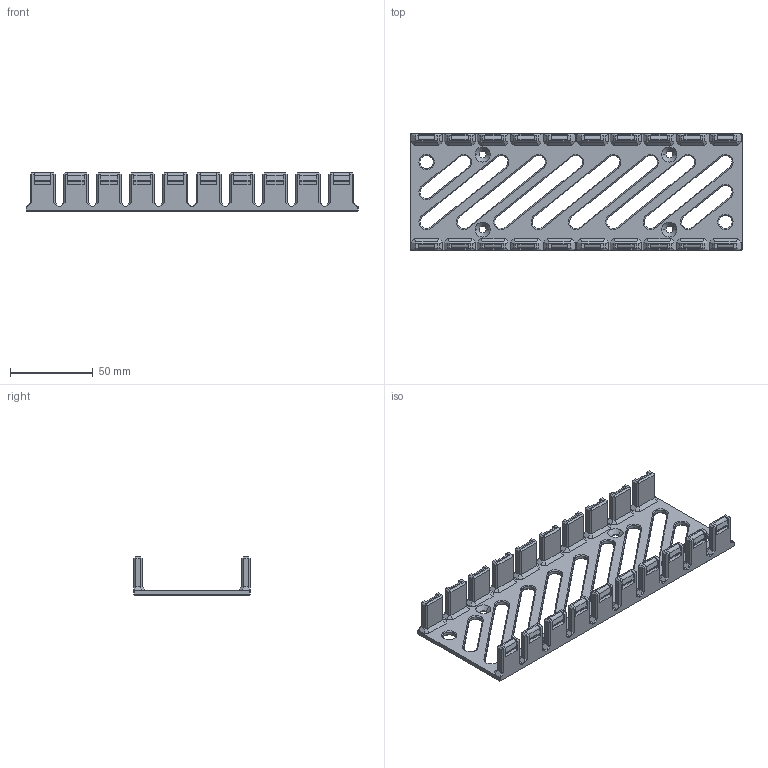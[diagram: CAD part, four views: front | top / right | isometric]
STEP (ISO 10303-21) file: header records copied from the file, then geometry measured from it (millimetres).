
FILE_DESCRIPTION (( 'STEP AP203' ), '1' );
FILE_NAME ('tray--screwMount.STEP', '2024-02-14T05:43:44', ( '' ), ( '' ), 'SwSTEP 2.0', 'SolidWorks 2020', '' );
FILE_SCHEMA (( 'CONFIG_CONTROL_DESIGN' ));
Length unit declared in the file: millimetre
Products named in the file (1): tray--screwMount
Bounding box: 200 x 70 x 23 mm (x, y, z)
Volume: 56493.1 mm3; surface area: 38688.4 mm2
Topology: 1 solids, 1 shells, 817 faces, 1988 edges, 1173 vertices
Faces by surface type: plane 688, cone 70, cylinder 59
Entity records: 23140 total; most frequent: CARTESIAN_POINT 3979, ORIENTED_EDGE 3976, DIRECTION 3821, EDGE_CURVE 1988, LINE 1791, VECTOR 1791, VERTEX_POINT 1173, AXIS2_PLACEMENT_3D 1015
